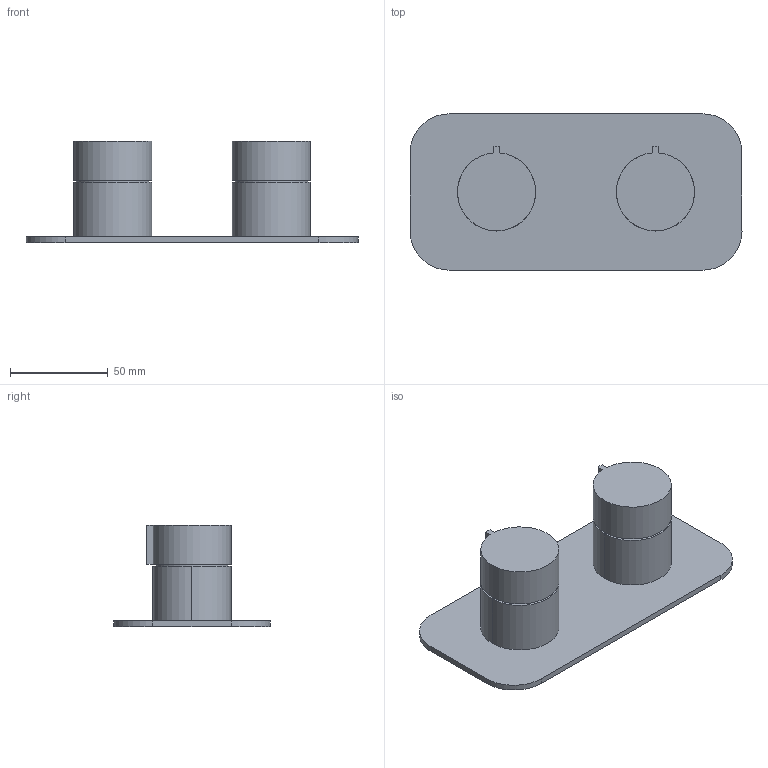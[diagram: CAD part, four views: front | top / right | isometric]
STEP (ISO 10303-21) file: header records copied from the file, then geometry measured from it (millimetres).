
FILE_DESCRIPTION(('FreeCAD Model'),'2;1');
FILE_NAME('Open CASCADE Shape Model','2024-07-23T16:28:52',('Author'),( ''),'Open CASCADE STEP processor 7.6','FreeCAD','Unknown');
FILE_SCHEMA(('AUTOMOTIVE_DESIGN { 1 0 10303 214 1 1 1 1 }'));
Length unit declared in the file: millimetre
Products named in the file (2): TopLevelAssembly; Połączona geometria bryłowa
Assembly tree (1 placements, depth 2):
  TopLevelAssembly
    Połączona geometria bryłowa
Bounding box: 170 x 80 x 51.88 mm (x, y, z)
Volume: 162645.1 mm3; surface area: 41192.9 mm2
Topology: 1 solids, 1 shells, 34 faces, 76 edges, 48 vertices
Faces by surface type: plane 18, cylinder 16
Entity records: 988 total; most frequent: DIRECTION 180, CARTESIAN_POINT 160, ORIENTED_EDGE 152, EDGE_CURVE 76, AXIS2_PLACEMENT_3D 68, VERTEX_POINT 48, LINE 44, VECTOR 44
